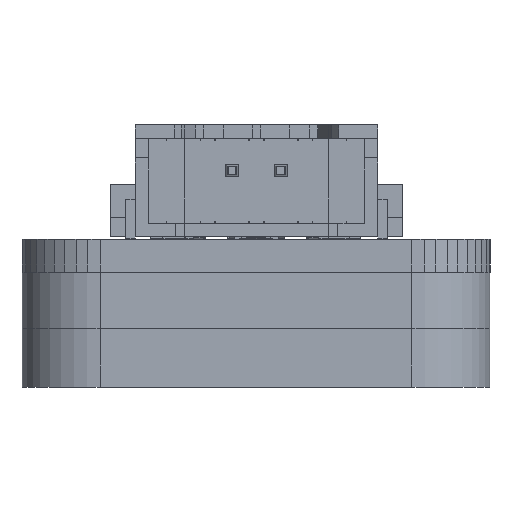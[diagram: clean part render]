
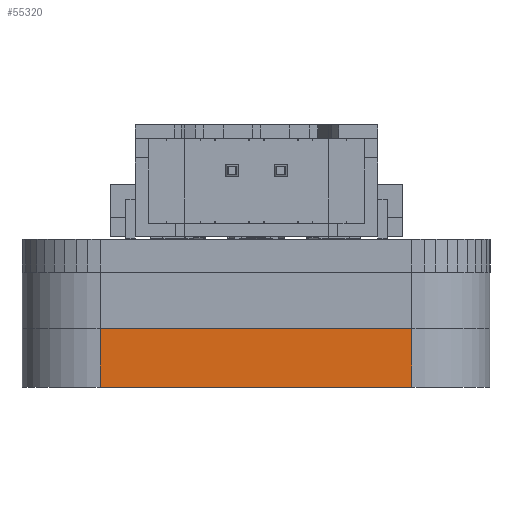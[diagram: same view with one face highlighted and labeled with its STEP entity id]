
A CAD part, front view. The second image highlights one B-rep face of the part: STEP entity #55320.
In plain terms, the highlighted planar face has unit normal (0, -1, 0).
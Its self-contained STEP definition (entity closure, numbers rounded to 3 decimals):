
#54925 = PLANE('',#54926);
#54926 = AXIS2_PLACEMENT_3D('',#54927,#54928,#54929);
#54927 = CARTESIAN_POINT('',(0.,0.,
    0.));
#54928 = DIRECTION('',(0.,0.,1.));
#54929 = DIRECTION('',(1.,0.,0.));
#54981 = PLANE('',#54982);
#54982 = AXIS2_PLACEMENT_3D('',#54983,#54984,#54985);
#54983 = CARTESIAN_POINT('',(0.,0.,3.)
  );
#54984 = DIRECTION('',(0.,0.,1.));
#54985 = DIRECTION('',(1.,0.,0.));
#55217 = VERTEX_POINT('',#55218);
#55218 = CARTESIAN_POINT('',(8.,-7.5,0.));
#55228 = CYLINDRICAL_SURFACE('',#55229,4.);
#55229 = AXIS2_PLACEMENT_3D('',#55230,#55231,#55232);
#55230 = CARTESIAN_POINT('',(8.,-3.5,0.));
#55231 = DIRECTION('',(0.,0.,1.));
#55232 = DIRECTION('',(0.,-1.,0.));
#55274 = VERTEX_POINT('',#55275);
#55275 = CARTESIAN_POINT('',(8.,-7.5,3.));
#55296 = EDGE_CURVE('',#55217,#55274,#55297,.T.);
#55297 = SURFACE_CURVE('',#55298,(#55302,#55308),.PCURVE_S1.);
#55298 = LINE('',#55299,#55300);
#55299 = CARTESIAN_POINT('',(8.,-7.5,0.));
#55300 = VECTOR('',#55301,1.);
#55301 = DIRECTION('',(0.,0.,1.));
#55302 = PCURVE('',#55228,#55303);
#55303 = DEFINITIONAL_REPRESENTATION('',(#55304),#55307);
#55304 = B_SPLINE_CURVE_WITH_KNOTS('',1,(#55305,#55306),.UNSPECIFIED.,
  .F.,.F.,(2,2),(0.,3.),.PIECEWISE_BEZIER_KNOTS.);
#55305 = CARTESIAN_POINT('',(0.,0.));
#55306 = CARTESIAN_POINT('',(0.,3.));
#55307 = ( GEOMETRIC_REPRESENTATION_CONTEXT(2) 
PARAMETRIC_REPRESENTATION_CONTEXT() REPRESENTATION_CONTEXT('2D SPACE',''
  ) );
#55308 = PCURVE('',#55309,#55314);
#55309 = PLANE('',#55310);
#55310 = AXIS2_PLACEMENT_3D('',#55311,#55312,#55313);
#55311 = CARTESIAN_POINT('',(-8.,-7.5,0.));
#55312 = DIRECTION('',(0.,-1.,0.));
#55313 = DIRECTION('',(1.,0.,0.));
#55314 = DEFINITIONAL_REPRESENTATION('',(#55315),#55319);
#55315 = LINE('',#55316,#55317);
#55316 = CARTESIAN_POINT('',(16.,0.));
#55317 = VECTOR('',#55318,1.);
#55318 = DIRECTION('',(0.,1.));
#55319 = ( GEOMETRIC_REPRESENTATION_CONTEXT(2) 
PARAMETRIC_REPRESENTATION_CONTEXT() REPRESENTATION_CONTEXT('2D SPACE',''
  ) );
#55320 = ADVANCED_FACE('',(#55321),#55309,.T.);
#55321 = FACE_BOUND('',#55322,.T.);
#55322 = EDGE_LOOP('',(#55323,#55346,#55347,#55370));
#55323 = ORIENTED_EDGE('',*,*,#55324,.T.);
#55324 = EDGE_CURVE('',#55325,#55217,#55327,.T.);
#55325 = VERTEX_POINT('',#55326);
#55326 = CARTESIAN_POINT('',(-8.,-7.5,0.));
#55327 = SURFACE_CURVE('',#55328,(#55332,#55339),.PCURVE_S1.);
#55328 = LINE('',#55329,#55330);
#55329 = CARTESIAN_POINT('',(-8.,-7.5,0.));
#55330 = VECTOR('',#55331,1.);
#55331 = DIRECTION('',(1.,0.,0.));
#55332 = PCURVE('',#55309,#55333);
#55333 = DEFINITIONAL_REPRESENTATION('',(#55334),#55338);
#55334 = LINE('',#55335,#55336);
#55335 = CARTESIAN_POINT('',(0.,0.));
#55336 = VECTOR('',#55337,1.);
#55337 = DIRECTION('',(1.,0.));
#55338 = ( GEOMETRIC_REPRESENTATION_CONTEXT(2) 
PARAMETRIC_REPRESENTATION_CONTEXT() REPRESENTATION_CONTEXT('2D SPACE',''
  ) );
#55339 = PCURVE('',#54925,#55340);
#55340 = DEFINITIONAL_REPRESENTATION('',(#55341),#55345);
#55341 = LINE('',#55342,#55343);
#55342 = CARTESIAN_POINT('',(-8.,-7.5));
#55343 = VECTOR('',#55344,1.);
#55344 = DIRECTION('',(1.,0.));
#55345 = ( GEOMETRIC_REPRESENTATION_CONTEXT(2) 
PARAMETRIC_REPRESENTATION_CONTEXT() REPRESENTATION_CONTEXT('2D SPACE',''
  ) );
#55346 = ORIENTED_EDGE('',*,*,#55296,.T.);
#55347 = ORIENTED_EDGE('',*,*,#55348,.F.);
#55348 = EDGE_CURVE('',#55349,#55274,#55351,.T.);
#55349 = VERTEX_POINT('',#55350);
#55350 = CARTESIAN_POINT('',(-8.,-7.5,3.));
#55351 = SURFACE_CURVE('',#55352,(#55356,#55363),.PCURVE_S1.);
#55352 = LINE('',#55353,#55354);
#55353 = CARTESIAN_POINT('',(-8.,-7.5,3.));
#55354 = VECTOR('',#55355,1.);
#55355 = DIRECTION('',(1.,0.,0.));
#55356 = PCURVE('',#55309,#55357);
#55357 = DEFINITIONAL_REPRESENTATION('',(#55358),#55362);
#55358 = LINE('',#55359,#55360);
#55359 = CARTESIAN_POINT('',(0.,3.));
#55360 = VECTOR('',#55361,1.);
#55361 = DIRECTION('',(1.,0.));
#55362 = ( GEOMETRIC_REPRESENTATION_CONTEXT(2) 
PARAMETRIC_REPRESENTATION_CONTEXT() REPRESENTATION_CONTEXT('2D SPACE',''
  ) );
#55363 = PCURVE('',#54981,#55364);
#55364 = DEFINITIONAL_REPRESENTATION('',(#55365),#55369);
#55365 = LINE('',#55366,#55367);
#55366 = CARTESIAN_POINT('',(-8.,-7.5));
#55367 = VECTOR('',#55368,1.);
#55368 = DIRECTION('',(1.,0.));
#55369 = ( GEOMETRIC_REPRESENTATION_CONTEXT(2) 
PARAMETRIC_REPRESENTATION_CONTEXT() REPRESENTATION_CONTEXT('2D SPACE',''
  ) );
#55370 = ORIENTED_EDGE('',*,*,#55371,.F.);
#55371 = EDGE_CURVE('',#55325,#55349,#55372,.T.);
#55372 = SURFACE_CURVE('',#55373,(#55377,#55384),.PCURVE_S1.);
#55373 = LINE('',#55374,#55375);
#55374 = CARTESIAN_POINT('',(-8.,-7.5,0.));
#55375 = VECTOR('',#55376,1.);
#55376 = DIRECTION('',(0.,0.,1.));
#55377 = PCURVE('',#55309,#55378);
#55378 = DEFINITIONAL_REPRESENTATION('',(#55379),#55383);
#55379 = LINE('',#55380,#55381);
#55380 = CARTESIAN_POINT('',(0.,0.));
#55381 = VECTOR('',#55382,1.);
#55382 = DIRECTION('',(0.,1.));
#55383 = ( GEOMETRIC_REPRESENTATION_CONTEXT(2) 
PARAMETRIC_REPRESENTATION_CONTEXT() REPRESENTATION_CONTEXT('2D SPACE',''
  ) );
#55384 = PCURVE('',#55385,#55390);
#55385 = CYLINDRICAL_SURFACE('',#55386,4.);
#55386 = AXIS2_PLACEMENT_3D('',#55387,#55388,#55389);
#55387 = CARTESIAN_POINT('',(-8.,-3.5,0.));
#55388 = DIRECTION('',(0.,0.,1.));
#55389 = DIRECTION('',(-1.,0.,0.));
#55390 = DEFINITIONAL_REPRESENTATION('',(#55391),#55394);
#55391 = B_SPLINE_CURVE_WITH_KNOTS('',1,(#55392,#55393),.UNSPECIFIED.,
  .F.,.F.,(2,2),(0.,3.),.PIECEWISE_BEZIER_KNOTS.);
#55392 = CARTESIAN_POINT('',(1.571,0.));
#55393 = CARTESIAN_POINT('',(1.571,3.));
#55394 = ( GEOMETRIC_REPRESENTATION_CONTEXT(2) 
PARAMETRIC_REPRESENTATION_CONTEXT() REPRESENTATION_CONTEXT('2D SPACE',''
  ) );
